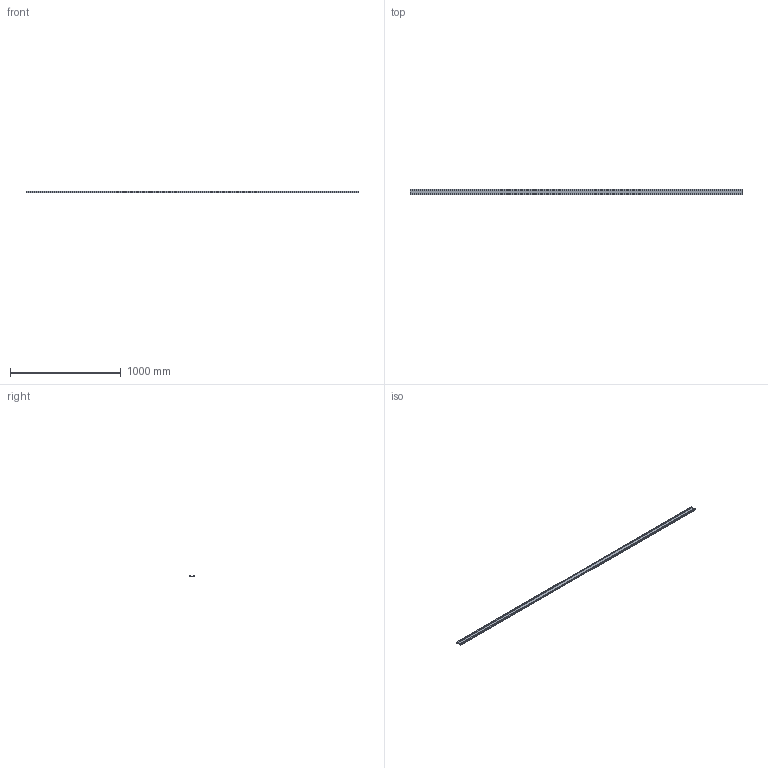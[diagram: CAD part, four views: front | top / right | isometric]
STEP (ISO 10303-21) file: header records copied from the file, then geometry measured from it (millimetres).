
FILE_DESCRIPTION (( 'STEP AP203' ), '1' );
FILE_NAME ('FABER - FD7 2.STEP', '2017-04-06T07:36:11', ( '' ), ( '' ), 'SwSTEP 2.0', 'SolidWorks 2016', '' );
FILE_SCHEMA (( 'CONFIG_CONTROL_DESIGN' ));
Length unit declared in the file: millimetre
Products named in the file (1): FABER - FD7 2
Bounding box: 3000 x 50 x 11 mm (x, y, z)
Volume: 781500 mm3; surface area: 480521 mm2
Topology: 1 solids, 1 shells, 14 faces, 36 edges, 24 vertices
Faces by surface type: plane 14
Entity records: 497 total; most frequent: CARTESIAN_POINT 75, ORIENTED_EDGE 72, DIRECTION 66, LINE 36, EDGE_CURVE 36, VECTOR 36, VERTEX_POINT 24, AXIS2_PLACEMENT_3D 15
